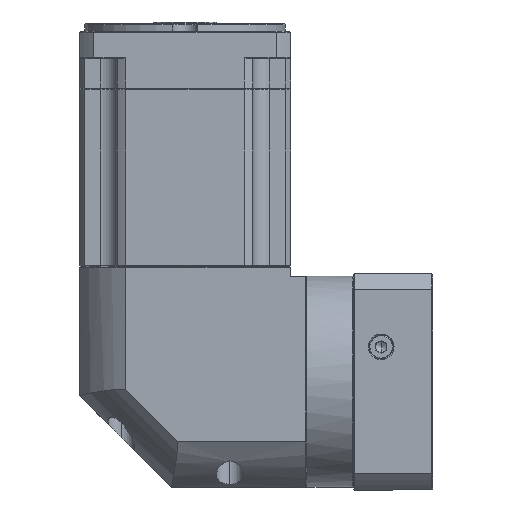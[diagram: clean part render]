
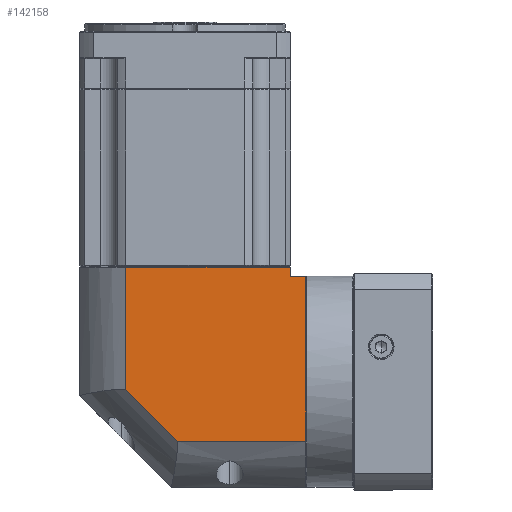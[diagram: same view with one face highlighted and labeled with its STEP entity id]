
A CAD part, left-side view. The second image highlights one B-rep face of the part: STEP entity #142158.
In plain terms, the highlighted planar face has unit normal (-1, 0, 0).
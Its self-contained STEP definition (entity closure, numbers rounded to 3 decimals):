
#2705 = CARTESIAN_POINT ( 'NONE',  ( -284.014, -98.832, 27.382 ) ) ;
#6075 = EDGE_CURVE ( 'NONE', #60838, #139723, #96573, .T. ) ;
#6348 = EDGE_CURVE ( 'NONE', #139723, #18865, #21646, .T. ) ;
#9761 = VERTEX_POINT ( 'NONE', #50340 ) ;
#10584 = CARTESIAN_POINT ( 'NONE',  ( -284.014, -8.932, -39.18 ) ) ;
#12057 = DIRECTION ( 'NONE',  ( 0., 0., 1. ) ) ;
#16266 = EDGE_CURVE ( 'NONE', #9761, #156972, #161953, .T. ) ;
#18865 = VERTEX_POINT ( 'NONE', #132947 ) ;
#21646 = LINE ( 'NONE', #69041, #86526 ) ;
#25140 = CARTESIAN_POINT ( 'NONE',  ( -284.014, -98.832, -92.618 ) ) ;
#26906 = CARTESIAN_POINT ( 'NONE',  ( -284.014, 16.168, 33.882 ) ) ;
#32575 = DIRECTION ( 'NONE',  ( 0., 1., 0. ) ) ;
#34544 = LINE ( 'NONE', #72173, #103494 ) ;
#34621 = CARTESIAN_POINT ( 'NONE',  ( -284.014, -107.232, 33.882 ) ) ;
#35739 = CARTESIAN_POINT ( 'NONE',  ( -284.014, -37.27, -67.518 ) ) ;
#36323 = ORIENTED_EDGE ( 'NONE', *, *, #61249, .T. ) ;
#38317 = ORIENTED_EDGE ( 'NONE', *, *, #78833, .F. ) ;
#39971 = DIRECTION ( 'NONE',  ( 0., 1., 0. ) ) ;
#46595 = DIRECTION ( 'NONE',  ( 0., 0., 1. ) ) ;
#47580 = DIRECTION ( 'NONE',  ( 0., -1., 0. ) ) ;
#50340 = CARTESIAN_POINT ( 'NONE',  ( -284.014, -8.932, 27.382 ) ) ;
#52373 = PLANE ( 'NONE',  #130598 ) ;
#59048 = CARTESIAN_POINT ( 'NONE',  ( -284.014, -107.232, 22.382 ) ) ;
#60838 = VERTEX_POINT ( 'NONE', #59048 ) ;
#61249 = EDGE_CURVE ( 'NONE', #93263, #156972, #121135, .T. ) ;
#64892 = LINE ( 'NONE', #35739, #99346 ) ;
#69041 = CARTESIAN_POINT ( 'NONE',  ( -284.014, 16.168, -67.518 ) ) ;
#70188 = VECTOR ( 'NONE', #32575, 1000. ) ;
#72173 = CARTESIAN_POINT ( 'NONE',  ( -284.014, -8.932, 33.882 ) ) ;
#74242 = LINE ( 'NONE', #84125, #70188 ) ;
#76417 = CARTESIAN_POINT ( 'NONE',  ( -284.014, -107.232, -67.518 ) ) ;
#78833 = EDGE_CURVE ( 'NONE', #18865, #132260, #64892, .T. ) ;
#80086 = EDGE_LOOP ( 'NONE', ( #154285, #38317, #146850, #91745, #110244, #36323, #110936 ) ) ;
#84125 = CARTESIAN_POINT ( 'NONE',  ( -284.014, -98.832, 22.382 ) ) ;
#86526 = VECTOR ( 'NONE', #133661, 1000. ) ;
#86619 = VECTOR ( 'NONE', #12057, 1000. ) ;
#91745 = ORIENTED_EDGE ( 'NONE', *, *, #6075, .F. ) ;
#93263 = VERTEX_POINT ( 'NONE', #160684 ) ;
#96573 = LINE ( 'NONE', #34621, #131088 ) ;
#99346 = VECTOR ( 'NONE', #113352, 1000. ) ;
#103494 = VECTOR ( 'NONE', #46595, 1000. ) ;
#110244 = ORIENTED_EDGE ( 'NONE', *, *, #129161, .T. ) ;
#110936 = ORIENTED_EDGE ( 'NONE', *, *, #16266, .F. ) ;
#112214 = CARTESIAN_POINT ( 'NONE',  ( -284.014, 16.168, 27.382 ) ) ;
#112230 = DIRECTION ( 'NONE',  ( 0., 0., -1. ) ) ;
#113352 = DIRECTION ( 'NONE',  ( 0., 0.707, 0.707 ) ) ;
#113779 = EDGE_CURVE ( 'NONE', #132260, #9761, #34544, .T. ) ;
#117655 = DIRECTION ( 'NONE',  ( 1., 0., 0. ) ) ;
#121135 = LINE ( 'NONE', #25140, #86619 ) ;
#122546 = FACE_OUTER_BOUND ( 'NONE', #80086, .T. ) ;
#127461 = VECTOR ( 'NONE', #47580, 1000. ) ;
#129161 = EDGE_CURVE ( 'NONE', #60838, #93263, #74242, .T. ) ;
#130598 = AXIS2_PLACEMENT_3D ( 'NONE', #26906, #117655, #39971 ) ;
#131088 = VECTOR ( 'NONE', #112230, 1000. ) ;
#132260 = VERTEX_POINT ( 'NONE', #10584 ) ;
#132947 = CARTESIAN_POINT ( 'NONE',  ( -284.014, -37.27, -67.518 ) ) ;
#133661 = DIRECTION ( 'NONE',  ( 0., 1., 0. ) ) ;
#139723 = VERTEX_POINT ( 'NONE', #76417 ) ;
#142158 = ADVANCED_FACE ( 'NONE', ( #122546 ), #52373, .F. ) ;
#146850 = ORIENTED_EDGE ( 'NONE', *, *, #6348, .F. ) ;
#154285 = ORIENTED_EDGE ( 'NONE', *, *, #113779, .F. ) ;
#156972 = VERTEX_POINT ( 'NONE', #2705 ) ;
#160684 = CARTESIAN_POINT ( 'NONE',  ( -284.014, -98.832, 22.382 ) ) ;
#161953 = LINE ( 'NONE', #112214, #127461 ) ;
